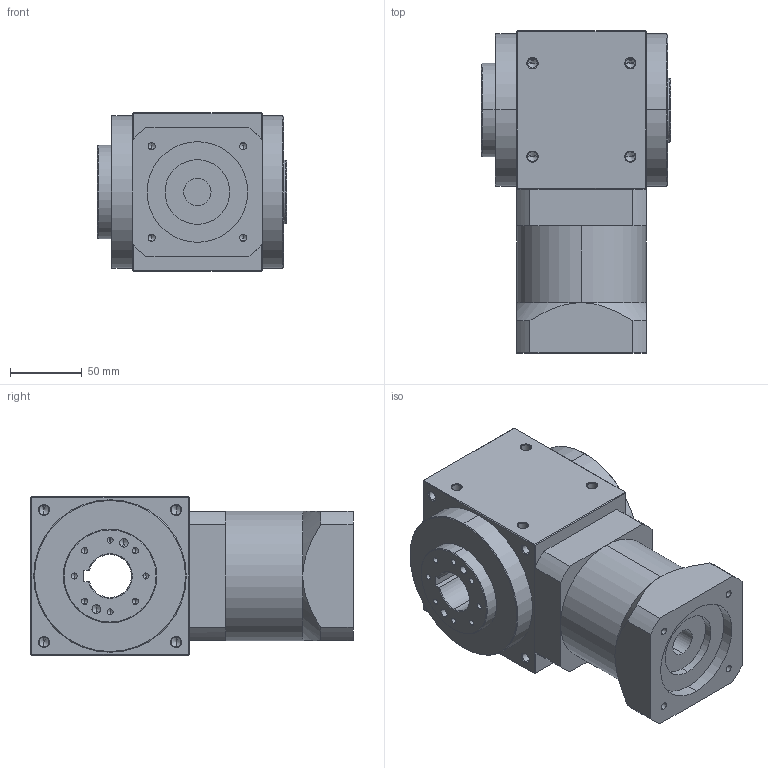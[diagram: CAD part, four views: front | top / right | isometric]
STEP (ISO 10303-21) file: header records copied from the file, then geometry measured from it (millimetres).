
FILE_DESCRIPTION (( 'STEP AP214' ), '1' );
FILE_NAME ('RXW110AS-L1-RFK-19-70-90-m6.STEP', '2020-07-10T11:09:13', ( 'User' ), ( 'Far123' ), 'SwSTEP 2.0', 'SolidWorks 2015', '' );
FILE_SCHEMA (( 'AUTOMOTIVE_DESIGN' ));
Length unit declared in the file: millimetre
Products named in the file (1): RXW110AS-L1-RFK-19-70-90-m6
Bounding box: 131.5 x 224 x 110 mm (x, y, z)
Volume: 2037892.2 mm3; surface area: 140329.5 mm2
Topology: 1 solids, 1 shells, 273 faces, 656 edges, 350 vertices
Faces by surface type: cone 126, cylinder 95, plane 52
Entity records: 8252 total; most frequent: CARTESIAN_POINT 1408, DIRECTION 1384, ORIENTED_EDGE 1176, EDGE_CURVE 588, AXIS2_PLACEMENT_3D 542, VERTEX_POINT 350, EDGE_LOOP 316, LINE 300
